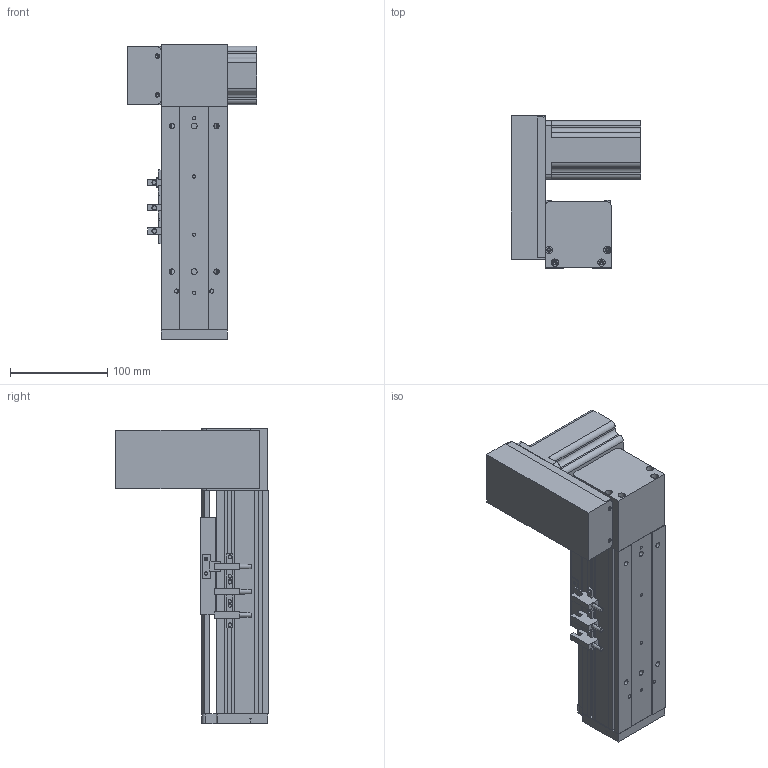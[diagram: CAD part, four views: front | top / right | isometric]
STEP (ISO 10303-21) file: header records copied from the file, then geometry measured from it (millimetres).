
FILE_DESCRIPTION (( 'STEP AP203' ), '1' );
FILE_NAME ('ML68-S50-UR.STEP', '2016-08-05T00:53:53', ( '' ), ( '' ), 'SwSTEP 2.0', 'SolidWorks 2014', '' );
FILE_SCHEMA (( 'CONFIG_CONTROL_DESIGN' ));
Length unit declared in the file: millimetre
Products named in the file (11): 換覜ん; ML68雄赽釱; QS68左右折电机板罩子; ML68-S50-UR; QS68酘衵殏萇儂啣; ML68奻裔^ML68-S50-UR; ML68-BL傷啣; ML68傷啣; 三协电机MH201N2_預設; 葩璃 ML68菁釱^ML68-S50-UR; 60換覜結え
Assembly tree (12 placements, depth 2):
  ML68-S50-UR
    葩璃 ML68菁釱^ML68-S50-UR
    ML68奻裔^ML68-S50-UR
    ML68傷啣
    ML68-BL傷啣
    60換覜結え
    換覜ん  x3
    三协电机MH201N2_預設
    ML68雄赽釱
    QS68酘衵殏萇儂啣
    QS68左右折电机板罩子
Bounding box: 133.5 x 157 x 304 mm (x, y, z)
Volume: 1031798.8 mm3; surface area: 314560.4 mm2
Topology: 12 solids, 12 shells, 785 faces, 2150 edges, 1363 vertices
Faces by surface type: cylinder 350, plane 343, cone 92
Entity records: 24365 total; most frequent: CARTESIAN_POINT 4377, DIRECTION 4042, ORIENTED_EDGE 3808, EDGE_CURVE 1904, AXIS2_PLACEMENT_3D 1448, VERTEX_POINT 1251, LINE 1146, VECTOR 1146
